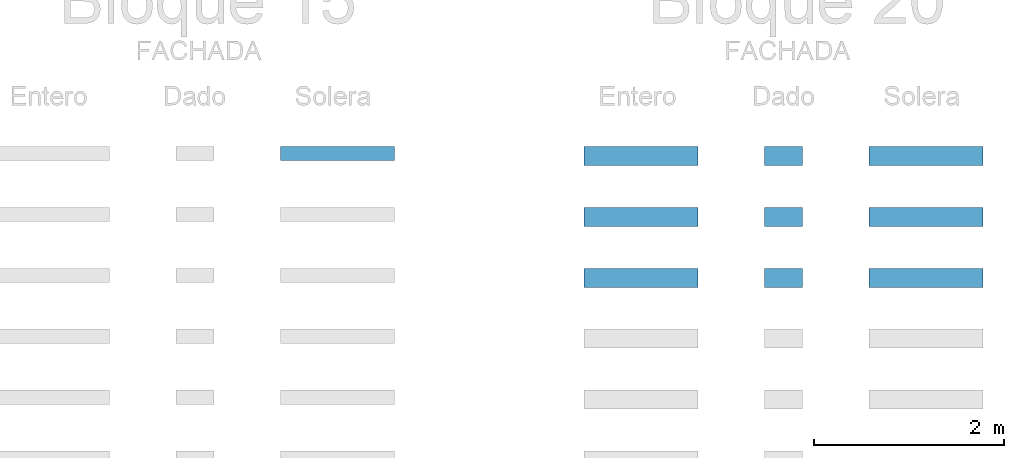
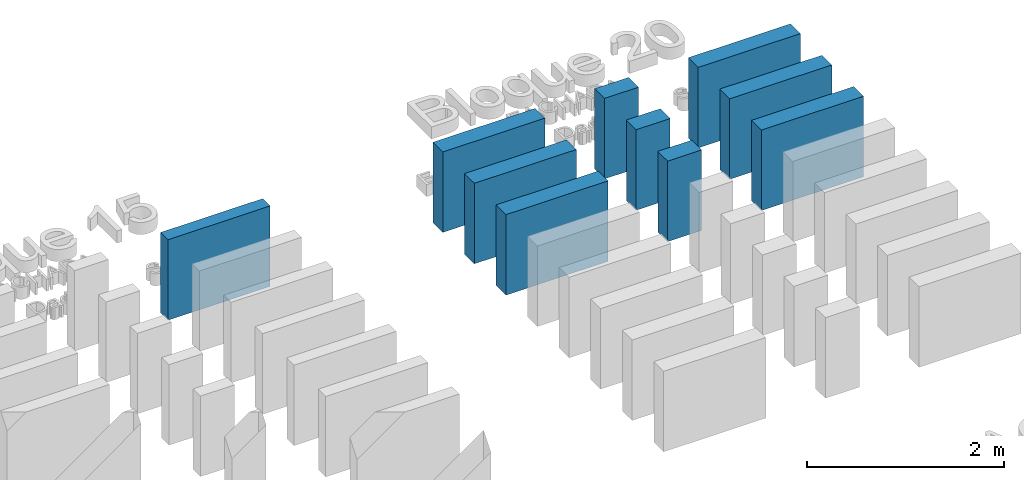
# One storey, part 5 of 19: 10 walls.
"""IFC2X3 building model written with IfcOpenShell, lengths in metres."""

from ifc_helpers import new_model, entity, si_unit, converted_unit, derived_unit, direction, frame, frame_2d, origin, place, context, subcontext, project, spatial, rectangle, extrude, material, layer, layer_set, layer_usage, type_object, element, save


model = new_model("IFC2X3")

# Units and contexts
model_context = context("Model", 3, precision=1e-05, world=origin(), true_north=direction((6.12303176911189e-17, 1.0)))
body_context = subcontext(model_context, "Body", "Model", "MODEL_VIEW")
ifc_project = project(units=[si_unit("LENGTHUNIT", "METRE"), si_unit("AREAUNIT", "SQUARE_METRE"), si_unit("VOLUMEUNIT", "CUBIC_METRE"), converted_unit("PLANEANGLEUNIT", "DEGREE", entity("IfcRatioMeasure", 0.0174532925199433), si_unit("PLANEANGLEUNIT", "RADIAN"), dimensions=[0, 0, 0, 0, 0, 0, 0]), si_unit("MASSUNIT", "GRAM", prefix="KILO"), derived_unit("MASSDENSITYUNIT", [(si_unit("MASSUNIT", "GRAM", prefix="KILO"), 1), (si_unit("LENGTHUNIT", "METRE"), -3)]), derived_unit("MOMENTOFINERTIAUNIT", [(si_unit("LENGTHUNIT", "METRE"), 4)]), si_unit("TIMEUNIT", "SECOND"), si_unit("FREQUENCYUNIT", "HERTZ"), si_unit("THERMODYNAMICTEMPERATUREUNIT", "DEGREE_CELSIUS"), derived_unit("THERMALTRANSMITTANCEUNIT", [(si_unit("MASSUNIT", "GRAM", prefix="KILO"), 1), (si_unit("THERMODYNAMICTEMPERATUREUNIT", "KELVIN"), -1), (si_unit("TIMEUNIT", "SECOND"), -3)]), derived_unit("VOLUMETRICFLOWRATEUNIT", [(si_unit("LENGTHUNIT", "METRE"), 3), (si_unit("TIMEUNIT", "SECOND"), -1)]), si_unit("ELECTRICCURRENTUNIT", "AMPERE"), si_unit("ELECTRICVOLTAGEUNIT", "VOLT"), si_unit("POWERUNIT", "WATT"), si_unit("FORCEUNIT", "NEWTON", prefix="KILO"), si_unit("ILLUMINANCEUNIT", "LUX"), si_unit("LUMINOUSFLUXUNIT", "LUMEN"), si_unit("LUMINOUSINTENSITYUNIT", "CANDELA"), derived_unit("USERDEFINED", [(si_unit("MASSUNIT", "GRAM", prefix="KILO"), -1), (si_unit("LENGTHUNIT", "METRE"), -2), (si_unit("TIMEUNIT", "SECOND"), 3), (si_unit("LUMINOUSFLUXUNIT", "LUMEN"), 1)]), derived_unit("LINEARVELOCITYUNIT", [(si_unit("LENGTHUNIT", "METRE"), 1), (si_unit("TIMEUNIT", "SECOND"), -1)]), si_unit("PRESSUREUNIT", "PASCAL"), derived_unit("USERDEFINED", [(si_unit("LENGTHUNIT", "METRE"), -2), (si_unit("MASSUNIT", "GRAM", prefix="KILO"), 1), (si_unit("TIMEUNIT", "SECOND"), -2)]), derived_unit("LINEARFORCEUNIT", [(si_unit("MASSUNIT", "GRAM", prefix="KILO"), 1), (si_unit("LENGTHUNIT", "METRE"), 1), (si_unit("TIMEUNIT", "SECOND"), -2), (si_unit("LENGTHUNIT", "METRE"), -1)]), derived_unit("PLANARFORCEUNIT", [(si_unit("MASSUNIT", "GRAM", prefix="KILO"), 1), (si_unit("LENGTHUNIT", "METRE"), 1), (si_unit("TIMEUNIT", "SECOND"), -2), (si_unit("LENGTHUNIT", "METRE"), -2)])], contexts=[model_context])

# Site, building, storey
site_placement = place(None, origin())
site = spatial("IfcSite", under=ifc_project, at=site_placement, Name="Default", CompositionType="ELEMENT")
building_placement = place(site_placement, origin())
building = spatial("IfcBuilding", under=site, at=building_placement, CompositionType="ELEMENT")
storey_placement = place(building_placement, origin())
storey = spatial("IfcBuildingStorey", under=building, at=storey_placement, Name="Nivel 1", CompositionType="ELEMENT", Elevation=0.0)

# Walls
ifc_material_1 = material(Name="Bloque - Natural")
ifc_layer_1 = layer(ifc_material_1, 0.15)
ifc_layer_set_1 = layer_set([ifc_layer_1], Name="Muro básico:Bloque 15 (Solera) / Fachada - Natural")
ifc_layer_usage_1 = layer_usage(ifc_layer_set_1, "AXIS2", "NEGATIVE", 0.075)
wall_type_1 = type_object("IfcWallType", Name="Muro básico:Bloque 15 (Solera) / Fachada - Natural", PredefinedType="STANDARD", material=ifc_layer_set_1)
wall_1_placement = place(storey_placement, frame((3.75148767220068, 9.54587767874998, 0.0)))
element("IfcWallStandardCase", 1, at=wall_1_placement, inside=storey, type_object=wall_type_1, material=ifc_layer_usage_1, Name="Muro básico:Bloque 15 (Solera) / Fachada - Natural", ObjectType="Muro básico:Bloque 15 (Solera) / Fachada - Natural", context=body_context, shape_type="SweptSolid", body=[
    extrude(rectangle(XDim=1.2, YDim=0.150000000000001, at=frame_2d((0.6, 4.16333634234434e-17), x_axis=(-1.0, 0.0))), origin(), (0.0, 0.0, 1.0), 1.0),
])
ifc_layer_2 = layer(ifc_material_1, 0.2)
ifc_layer_set_2 = layer_set([ifc_layer_2], Name="Muro básico:Bloque 20 / Fachada - Natural")
ifc_layer_usage_2 = layer_usage(ifc_layer_set_2, "AXIS2", "NEGATIVE", 0.1)
wall_type_2 = type_object("IfcWallType", Name="Muro básico:Bloque 20 / Fachada - Natural", PredefinedType="STANDARD", material=ifc_layer_set_2)
wall_2_placement = place(storey_placement, frame((6.95148767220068, 9.52087767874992, 0.0)))
element("IfcWallStandardCase", 2, at=wall_2_placement, inside=storey, type_object=wall_type_2, material=ifc_layer_usage_2, Name="Muro básico:Bloque 20 / Fachada - Natural", ObjectType="Muro básico:Bloque 20 / Fachada - Natural", context=body_context, shape_type="SweptSolid", body=[
    extrude(rectangle(XDim=1.2, YDim=0.2, at=frame_2d((0.600000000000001, 4.16333634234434e-17), x_axis=(-1.0, 0.0))), origin(), (0.0, 0.0, 1.0), 1.0),
])
ifc_material_2 = material(Name="Bloque (Dado) - Natural")
ifc_layer_3 = layer(ifc_material_2, 0.2)
ifc_layer_set_3 = layer_set([ifc_layer_3], Name="Muro básico:Bloque 20 (Dado) / Fachada - Natural")
ifc_layer_usage_3 = layer_usage(ifc_layer_set_3, "AXIS2", "NEGATIVE", 0.1)
wall_type_3 = type_object("IfcWallType", Name="Muro básico:Bloque 20 (Dado) / Fachada - Natural", PredefinedType="STANDARD", material=ifc_layer_set_3)
wall_3_placement = place(storey_placement, frame((8.85148767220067, 9.52087767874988, 0.0)))
element("IfcWallStandardCase", 3, at=wall_3_placement, inside=storey, type_object=wall_type_3, material=ifc_layer_usage_3, Name="Muro básico:Bloque 20 (Dado) / Fachada - Natural", ObjectType="Muro básico:Bloque 20 (Dado) / Fachada - Natural", context=body_context, shape_type="SweptSolid", body=[
    extrude(rectangle(XDim=0.400000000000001, YDim=0.2, at=frame_2d((0.200000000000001, 2.08166817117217e-17), x_axis=(-1.0, 0.0))), origin(), (0.0, 0.0, 1.0), 1.0),
])
ifc_layer_4 = layer(ifc_material_1, 0.2)
ifc_layer_set_4 = layer_set([ifc_layer_4], Name="Muro básico:Bloque 20 (Solera) / Fachada - Natural")
ifc_layer_usage_4 = layer_usage(ifc_layer_set_4, "AXIS2", "NEGATIVE", 0.1)
wall_type_4 = type_object("IfcWallType", Name="Muro básico:Bloque 20 (Solera) / Fachada - Natural", PredefinedType="STANDARD", material=ifc_layer_set_4)
wall_4_placement = place(storey_placement, frame((9.95148767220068, 9.52087767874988, 0.0)))
element("IfcWallStandardCase", 4, at=wall_4_placement, inside=storey, type_object=wall_type_4, material=ifc_layer_usage_4, Name="Muro básico:Bloque 20 (Solera) / Fachada - Natural", ObjectType="Muro básico:Bloque 20 (Solera) / Fachada - Natural", context=body_context, shape_type="SweptSolid", body=[
    extrude(rectangle(XDim=1.2, YDim=0.2, at=frame_2d((0.6, 4.16333634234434e-17), x_axis=(-1.0, 0.0))), origin(), (0.0, 0.0, 1.0), 1.0),
])
ifc_material_3 = material(Name="Bloque - Rosado")
ifc_layer_5 = layer(ifc_material_3, 0.2)
ifc_layer_set_5 = layer_set([ifc_layer_5], Name="Muro básico:Bloque 20 / Fachada - Rosado")
ifc_layer_usage_5 = layer_usage(ifc_layer_set_5, "AXIS2", "NEGATIVE", 0.1)
wall_type_5 = type_object("IfcWallType", Name="Muro básico:Bloque 20 / Fachada - Rosado", PredefinedType="STANDARD", material=ifc_layer_set_5)
wall_5_placement = place(storey_placement, frame((6.95148767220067, 8.87899828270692, 0.0)))
element("IfcWallStandardCase", 5, at=wall_5_placement, inside=storey, type_object=wall_type_5, material=ifc_layer_usage_5, Name="Muro básico:Bloque 20 / Fachada - Rosado", ObjectType="Muro básico:Bloque 20 / Fachada - Rosado", context=body_context, shape_type="SweptSolid", body=[
    extrude(rectangle(XDim=1.2, YDim=0.2, at=frame_2d((0.600000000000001, 4.16333634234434e-17), x_axis=(-1.0, 0.0))), origin(), (0.0, 0.0, 1.0), 1.0),
])
ifc_material_4 = material(Name="Bloque - Rojo")
ifc_layer_6 = layer(ifc_material_4, 0.2)
ifc_layer_set_6 = layer_set([ifc_layer_6], Name="Muro básico:Bloque 20 / Fachada - Rojo")
ifc_layer_usage_6 = layer_usage(ifc_layer_set_6, "AXIS2", "NEGATIVE", 0.1)
wall_type_6 = type_object("IfcWallType", Name="Muro básico:Bloque 20 / Fachada - Rojo", PredefinedType="STANDARD", material=ifc_layer_set_6)
wall_6_placement = place(storey_placement, frame((6.95148767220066, 8.23711888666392, 0.0)))
element("IfcWallStandardCase", 6, at=wall_6_placement, inside=storey, type_object=wall_type_6, material=ifc_layer_usage_6, Name="Muro básico:Bloque 20 / Fachada - Rojo", ObjectType="Muro básico:Bloque 20 / Fachada - Rojo", context=body_context, shape_type="SweptSolid", body=[
    extrude(rectangle(XDim=1.2, YDim=0.2, at=frame_2d((0.600000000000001, 4.16333634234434e-17), x_axis=(-1.0, 0.0))), origin(), (0.0, 0.0, 1.0), 1.0),
])
ifc_material_5 = material(Name="Bloque (Dado) - Rosado")
ifc_layer_7 = layer(ifc_material_5, 0.2)
ifc_layer_set_7 = layer_set([ifc_layer_7], Name="Muro básico:Bloque 20 (Dado) / Fachada - Rosado")
ifc_layer_usage_7 = layer_usage(ifc_layer_set_7, "AXIS2", "NEGATIVE", 0.1)
wall_type_7 = type_object("IfcWallType", Name="Muro básico:Bloque 20 (Dado) / Fachada - Rosado", PredefinedType="STANDARD", material=ifc_layer_set_7)
wall_7_placement = place(storey_placement, frame((8.85148767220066, 8.87899828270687, 0.0)))
element("IfcWallStandardCase", 7, at=wall_7_placement, inside=storey, type_object=wall_type_7, material=ifc_layer_usage_7, Name="Muro básico:Bloque 20 (Dado) / Fachada - Rosado", ObjectType="Muro básico:Bloque 20 (Dado) / Fachada - Rosado", context=body_context, shape_type="SweptSolid", body=[
    extrude(rectangle(XDim=0.400000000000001, YDim=0.2, at=frame_2d((0.200000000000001, 2.08166817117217e-17), x_axis=(-1.0, 0.0))), origin(), (0.0, 0.0, 1.0), 1.0),
])
ifc_material_6 = material(Name="Bloque (Dado) - Rojo")
ifc_layer_8 = layer(ifc_material_6, 0.2)
ifc_layer_set_8 = layer_set([ifc_layer_8], Name="Muro básico:Bloque 20 (Dado) / Fachada - Rojo")
ifc_layer_usage_8 = layer_usage(ifc_layer_set_8, "AXIS2", "NEGATIVE", 0.1)
wall_type_8 = type_object("IfcWallType", Name="Muro básico:Bloque 20 (Dado) / Fachada - Rojo", PredefinedType="STANDARD", material=ifc_layer_set_8)
wall_8_placement = place(storey_placement, frame((8.85148767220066, 8.23711888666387, 0.0)))
element("IfcWallStandardCase", 8, at=wall_8_placement, inside=storey, type_object=wall_type_8, material=ifc_layer_usage_8, Name="Muro básico:Bloque 20 (Dado) / Fachada - Rojo", ObjectType="Muro básico:Bloque 20 (Dado) / Fachada - Rojo", context=body_context, shape_type="SweptSolid", body=[
    extrude(rectangle(XDim=0.400000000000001, YDim=0.2, at=frame_2d((0.200000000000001, 2.08166817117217e-17), x_axis=(-1.0, 0.0))), origin(), (0.0, 0.0, 1.0), 1.0),
])
ifc_layer_9 = layer(ifc_material_3, 0.2)
ifc_layer_set_9 = layer_set([ifc_layer_9], Name="Muro básico:Bloque 20 (Solera) / Fachada - Rosado")
ifc_layer_usage_9 = layer_usage(ifc_layer_set_9, "AXIS2", "NEGATIVE", 0.1)
wall_type_9 = type_object("IfcWallType", Name="Muro básico:Bloque 20 (Solera) / Fachada - Rosado", PredefinedType="STANDARD", material=ifc_layer_set_9)
wall_9_placement = place(storey_placement, frame((9.95148767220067, 8.87899828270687, 0.0)))
element("IfcWallStandardCase", 9, at=wall_9_placement, inside=storey, type_object=wall_type_9, material=ifc_layer_usage_9, Name="Muro básico:Bloque 20 (Solera) / Fachada - Rosado", ObjectType="Muro básico:Bloque 20 (Solera) / Fachada - Rosado", context=body_context, shape_type="SweptSolid", body=[
    extrude(rectangle(XDim=1.2, YDim=0.2, at=frame_2d((0.6, 4.16333634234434e-17), x_axis=(-1.0, 0.0))), origin(), (0.0, 0.0, 1.0), 1.0),
])
ifc_layer_10 = layer(ifc_material_4, 0.2)
ifc_layer_set_10 = layer_set([ifc_layer_10], Name="Muro básico:Bloque 20 (Solera) / Fachada - Rojo")
ifc_layer_usage_10 = layer_usage(ifc_layer_set_10, "AXIS2", "NEGATIVE", 0.1)
wall_type_10 = type_object("IfcWallType", Name="Muro básico:Bloque 20 (Solera) / Fachada - Rojo", PredefinedType="STANDARD", material=ifc_layer_set_10)
wall_10_placement = place(storey_placement, frame((9.95148767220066, 8.23711888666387, 0.0)))
element("IfcWallStandardCase", 10, at=wall_10_placement, inside=storey, type_object=wall_type_10, material=ifc_layer_usage_10, Name="Muro básico:Bloque 20 (Solera) / Fachada - Rojo", ObjectType="Muro básico:Bloque 20 (Solera) / Fachada - Rojo", context=body_context, shape_type="SweptSolid", body=[
    extrude(rectangle(XDim=1.2, YDim=0.2, at=frame_2d((0.6, 4.16333634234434e-17), x_axis=(-1.0, 0.0))), origin(), (0.0, 0.0, 1.0), 1.0),
])

save(model, "model.ifc")
